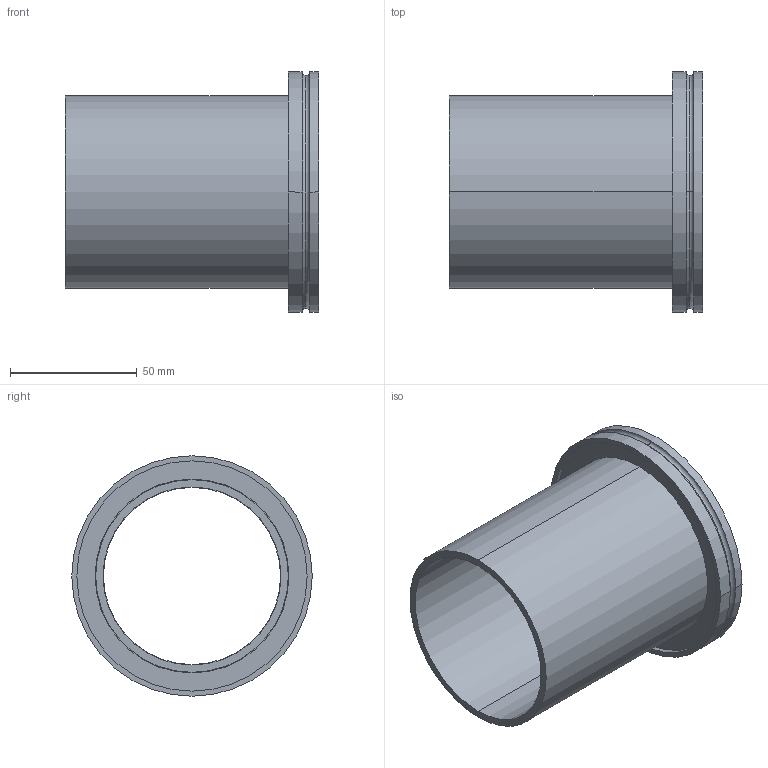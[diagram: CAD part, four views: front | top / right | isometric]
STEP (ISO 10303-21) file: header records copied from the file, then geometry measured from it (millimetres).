
FILE_DESCRIPTION((''),'2;1');
FILE_NAME('N:\Transfer\Berger Martin\Leybold\C13\26904.stp','2005-02-08T10:49:55',('PESO'),(''),'Autodesk Inventor 9','Autodesk Inventor 9','');
FILE_SCHEMA(('AUTOMOTIVE_DESIGN { 1 0 10303 214 1 1 1 1 }'));
Length unit declared in the file: millimetre
Products named in the file (1): 26904
Bounding box: 100 x 95 x 95 mm (x, y, z)
Volume: 91704.7 mm3; surface area: 57378.2 mm2
Topology: 1 solids, 1 shells, 32 faces, 71 edges, 45 vertices
Faces by surface type: cylinder 14, plane 6, bspline 4, torus 4, cone 4
Entity records: 1099 total; most frequent: CARTESIAN_POINT 325, DIRECTION 182, ORIENTED_EDGE 142, AXIS2_PLACEMENT_3D 82, EDGE_CURVE 71, CIRCLE 53, VERTEX_POINT 45, EDGE_LOOP 38
